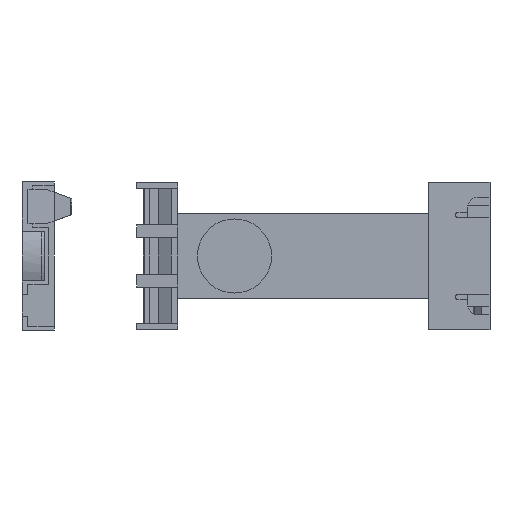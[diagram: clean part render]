
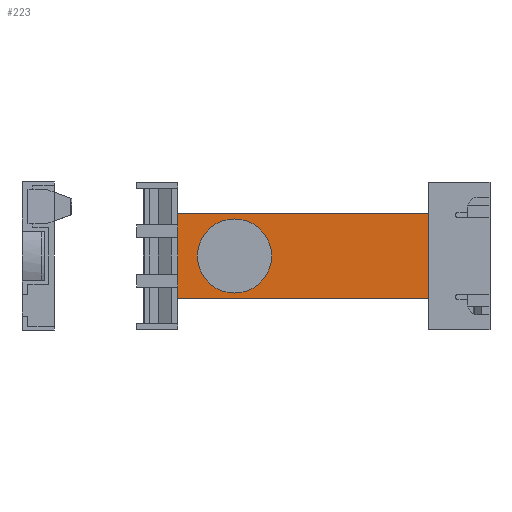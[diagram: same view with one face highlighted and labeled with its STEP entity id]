
A CAD part, front view. The second image highlights one B-rep face of the part: STEP entity #223.
In plain terms, the highlighted planar face has unit normal (0, -1, 0).
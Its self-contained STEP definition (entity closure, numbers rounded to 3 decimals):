
#223 = ADVANCED_FACE( '', ( #661, #662 ), #663, .T. );
#661 = FACE_OUTER_BOUND( '', #1342, .T. );
#662 = FACE_BOUND( '', #1343, .T. );
#663 = PLANE( '', #1344 );
#1342 = EDGE_LOOP( '', ( #2687, #2688, #2689, #2690 ) );
#1343 = EDGE_LOOP( '', ( #2691, #2692 ) );
#1344 = AXIS2_PLACEMENT_3D( '', #2693, #2694, #2695 );
#2687 = ORIENTED_EDGE( '', *, *, #4918, .T. );
#2688 = ORIENTED_EDGE( '', *, *, #5057, .F. );
#2689 = ORIENTED_EDGE( '', *, *, #5058, .F. );
#2690 = ORIENTED_EDGE( '', *, *, #5059, .T. );
#2691 = ORIENTED_EDGE( '', *, *, #4781, .F. );
#2692 = ORIENTED_EDGE( '', *, *, #5060, .F. );
#2693 = CARTESIAN_POINT( '', ( 51.3, -18.435, 8.5 ) );
#2694 = DIRECTION( '', ( 0., -1., 0. ) );
#2695 = DIRECTION( '', ( 0., 0., 1. ) );
#4781 = EDGE_CURVE( '', #5775, #5771, #5777, .T. );
#4918 = EDGE_CURVE( '', #6007, #6008, #6009, .T. );
#5057 = EDGE_CURVE( '', #6237, #6008, #6238, .T. );
#5058 = EDGE_CURVE( '', #6239, #6237, #6240, .T. );
#5059 = EDGE_CURVE( '', #6239, #6007, #6241, .T. );
#5060 = EDGE_CURVE( '', #5771, #5775, #6242, .T. );
#5771 = VERTEX_POINT( '', #7388 );
#5775 = VERTEX_POINT( '', #7393 );
#5777 = CIRCLE( '', #7396, 6.5 );
#6007 = VERTEX_POINT( '', #7746 );
#6008 = VERTEX_POINT( '', #7747 );
#6009 = LINE( '', #7748, #7749 );
#6237 = VERTEX_POINT( '', #8098 );
#6238 = LINE( '', #8099, #8100 );
#6239 = VERTEX_POINT( '', #8101 );
#6240 = LINE( '', #8102, #8103 );
#6241 = LINE( '', #8104, #8105 );
#6242 = CIRCLE( '', #8106, 6.5 );
#7388 = CARTESIAN_POINT( '', ( 6.5, -18.435, 0. ) );
#7393 = CARTESIAN_POINT( '', ( -6.5, -18.435, 0. ) );
#7396 = AXIS2_PLACEMENT_3D( '', #9898, #9899, #9900 );
#7746 = CARTESIAN_POINT( '', ( -11.5, -18.435, 8.5 ) );
#7747 = CARTESIAN_POINT( '', ( -11.5, -18.435, -8.5 ) );
#7748 = CARTESIAN_POINT( '', ( -11.5, -18.435, 8.5 ) );
#7749 = VECTOR( '', #10069, 1. );
#8098 = CARTESIAN_POINT( '', ( 51.3, -18.435, -8.5 ) );
#8099 = CARTESIAN_POINT( '', ( 51.3, -18.435, -8.5 ) );
#8100 = VECTOR( '', #10242, 1. );
#8101 = CARTESIAN_POINT( '', ( 51.3, -18.435, 8.5 ) );
#8102 = CARTESIAN_POINT( '', ( 51.3, -18.435, 8.5 ) );
#8103 = VECTOR( '', #10243, 1. );
#8104 = CARTESIAN_POINT( '', ( 51.3, -18.435, 8.5 ) );
#8105 = VECTOR( '', #10244, 1. );
#8106 = AXIS2_PLACEMENT_3D( '', #10245, #10246, #10247 );
#9898 = CARTESIAN_POINT( '', ( 0., -18.435, 0. ) );
#9899 = DIRECTION( '', ( 0., -1., 0. ) );
#9900 = DIRECTION( '', ( 1., 0., 0. ) );
#10069 = DIRECTION( '', ( 0., 0., -1. ) );
#10242 = DIRECTION( '', ( -1., 0., 0. ) );
#10243 = DIRECTION( '', ( 0., 0., -1. ) );
#10244 = DIRECTION( '', ( -1., 0., 0. ) );
#10245 = CARTESIAN_POINT( '', ( 0., -18.435, 0. ) );
#10246 = DIRECTION( '', ( 0., -1., 0. ) );
#10247 = DIRECTION( '', ( 1., 0., 0. ) );
